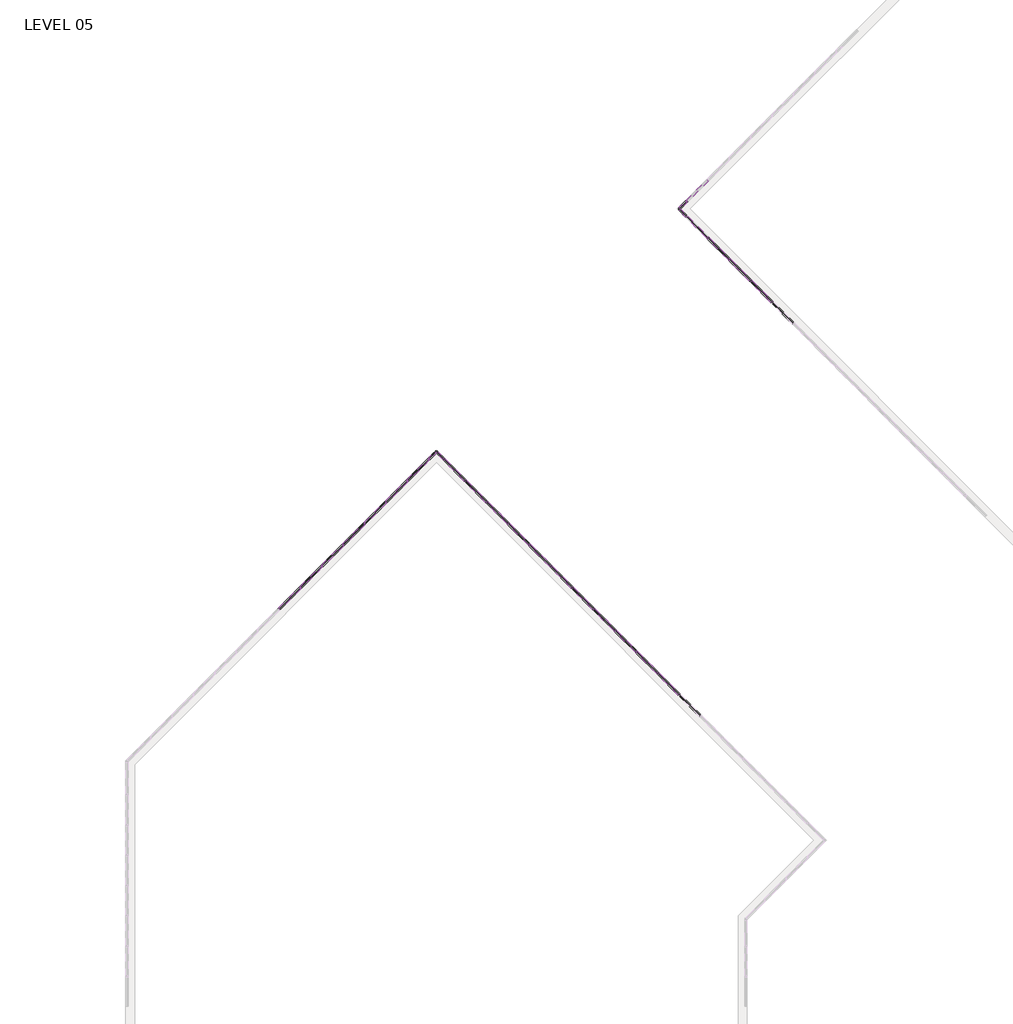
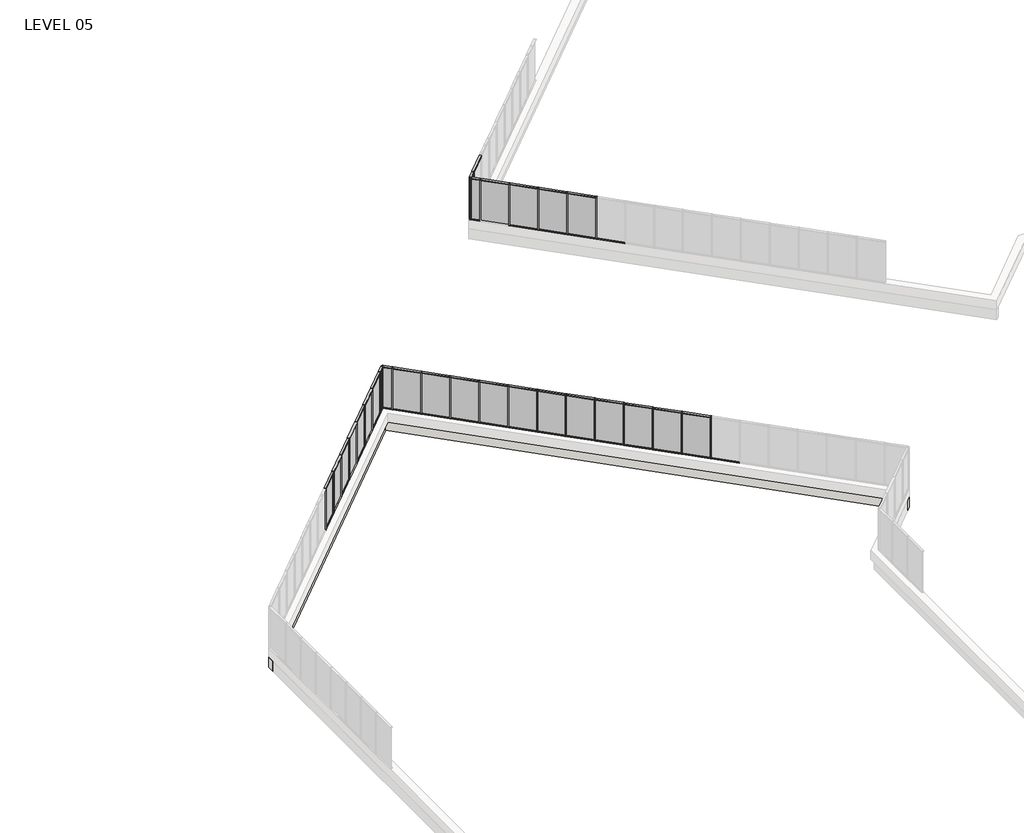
# One storey, part 6 of 17: 83 members, 26 plates, 2 walls.
"""IFC4 building model written with IfcOpenShell, lengths in millimetres."""

from ifc_helpers import new_model, si_unit, origin, place, context, project, spatial, faceted_brep, transform, mapped, element, save
from components import member_5247f267, member_e44af9ab, member_800970d4, member_ac5115e9, member_25b26a38, member_910c08c9, plate_67294edd, plate_c01932d8, plate_6d527a83, plate_88df3e37

model = new_model("IFC4")

# Units and contexts
model_context = context("Model", 3, world=origin())
ifc_project = project(units=[si_unit("LENGTHUNIT", "METRE", prefix="MILLI")], contexts=[model_context])

# Site, building, storey
site = spatial("IfcSite", under=ifc_project)
building = spatial("IfcBuilding", under=site)
storey = spatial("IfcBuildingStorey", under=building, Name="LEVEL 05", Elevation=15824.2)

# Members
placement = place(None, origin())
member_shape = member_5247f267(model_context)
element("IfcMember", 1, ObjectType="Rectangular Mullion : 2\" x 4.5\" rectangular", at=placement, inside=storey, context=model_context, shape_type="MappedRepresentation", body=[
    mapped(member_shape, transform((-3497.8097592, 103063.8559285, 15824.2), x_axis=(0.0, 0.0, -1.0), y_axis=(-0.7071067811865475, -0.7071067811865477, 0.0), z_axis=(-0.7071067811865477, 0.7071067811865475, 0.0))),
])
element("IfcMember", 2, ObjectType="Rectangular Mullion : 2\" x 4.5\" rectangular", at=placement, inside=storey, context=model_context, shape_type="MappedRepresentation", body=[
    mapped(member_shape, transform((-2420.1790246, 101986.2251939, 15824.2), x_axis=(0.0, 0.0, -1.0), y_axis=(-0.7071067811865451, -0.7071067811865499, 0.0), z_axis=(-0.7071067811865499, 0.7071067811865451, 0.0))),
])
element("IfcMember", 3, ObjectType="Rectangular Mullion : 2\" x 4.5\" rectangular", at=placement, inside=storey, context=model_context, shape_type="MappedRepresentation", body=[
    mapped(member_shape, transform((-1342.5482901, 100908.5944594, 15824.2), x_axis=(0.0, 0.0, -1.0), y_axis=(-0.7071067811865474, -0.7071067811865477, 0.0), z_axis=(-0.7071067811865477, 0.7071067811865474, 0.0))),
])
element("IfcMember", 4, ObjectType="Rectangular Mullion : 2\" x 4.5\" rectangular", at=placement, inside=storey, context=model_context, shape_type="MappedRepresentation", body=[
    mapped(member_shape, transform((-264.9175556, 99830.9637249, 15824.2), x_axis=(0.0, 0.0, -1.0), y_axis=(-0.7071067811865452, -0.7071067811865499, 0.0), z_axis=(-0.7071067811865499, 0.7071067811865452, 0.0))),
])
element("IfcMember", 5, ObjectType="Rectangular Mullion : 2\" x 4.5\" rectangular", at=placement, inside=storey, context=model_context, shape_type="MappedRepresentation", body=[
    mapped(member_shape, transform((-4575.6191663, 104942.0892742, 18415.0), x_axis=(0.0, 0.0, 1.0), y_axis=(-0.7071067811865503, 0.7071067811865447, 0.0), z_axis=(-0.7071067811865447, -0.7071067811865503, 0.0))),
])
element("IfcMember", 6, ObjectType="Rectangular Mullion : 2\" x 4.5\" rectangular", at=placement, inside=storey, context=model_context, shape_type="MappedRepresentation", body=[
    mapped(member_shape, transform((-3533.7307836, 103099.7769529, 18415.0), x_axis=(0.0, 0.0, 1.0), y_axis=(-0.7071067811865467, -0.7071067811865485, 0.0), z_axis=(0.7071067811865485, -0.7071067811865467, 0.0))),
])
element("IfcMember", 7, ObjectType="Rectangular Mullion : 2\" x 4.5\" rectangular", at=placement, inside=storey, context=model_context, shape_type="MappedRepresentation", body=[
    mapped(member_shape, transform((-2456.1000491, 102022.1462184, 18415.0), x_axis=(0.0, 0.0, 1.0), y_axis=(-0.7071067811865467, -0.7071067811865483, 0.0), z_axis=(0.7071067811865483, -0.7071067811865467, 0.0))),
])
element("IfcMember", 8, ObjectType="Rectangular Mullion : 2\" x 4.5\" rectangular", at=placement, inside=storey, context=model_context, shape_type="MappedRepresentation", body=[
    mapped(member_shape, transform((-1378.4693146, 100944.5154839, 18415.0), x_axis=(0.0, 0.0, 1.0), y_axis=(-0.707106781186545, -0.7071067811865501, 0.0), z_axis=(0.7071067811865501, -0.707106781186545, 0.0))),
])
element("IfcMember", 9, ObjectType="Rectangular Mullion : 2\" x 4.5\" rectangular", at=placement, inside=storey, context=model_context, shape_type="MappedRepresentation", body=[
    mapped(member_shape, transform((-300.8385801, 99866.8847494, 18415.0), x_axis=(0.0, 0.0, 1.0), y_axis=(-0.7071067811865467, -0.7071067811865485, 0.0), z_axis=(0.7071067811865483, -0.7071067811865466, 0.0))),
])
member_2_shape = member_e44af9ab(model_context)
element("IfcMember", 10, ObjectType="Rectangular Mullion : 2\" x 4.5\" rectangular", at=placement, inside=storey, context=model_context, shape_type="MappedRepresentation", body=[
    mapped(member_2_shape, transform((-4593.5796786, 104924.128762, 15824.2), x_axis=(-0.7071067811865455, -0.7071067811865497, 0.0), y_axis=(-0.7071067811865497, 0.7071067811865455, 0.0), z_axis=(0.0, 0.0, -1.0))),
])
element("IfcMember", 11, ObjectType="Rectangular Mullion : 2\" x 4.5\" rectangular", at=placement, inside=storey, context=model_context, shape_type="MappedRepresentation", body=[
    mapped(member_2_shape, transform((-3515.7702714, 103081.8164407, 15824.2), x_axis=(0.7071067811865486, -0.7071067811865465, 0.0), y_axis=(-0.7071067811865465, -0.7071067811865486, 0.0), z_axis=(0.0, 0.0, -1.0))),
])
element("IfcMember", 12, ObjectType="Rectangular Mullion : 2\" x 4.5\" rectangular", at=placement, inside=storey, context=model_context, shape_type="MappedRepresentation", body=[
    mapped(member_2_shape, transform((-2438.1395369, 102004.1857062, 15824.2), x_axis=(0.7071067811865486, -0.7071067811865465, 0.0), y_axis=(-0.7071067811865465, -0.7071067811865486, 0.0), z_axis=(0.0, 0.0, -1.0))),
])
element("IfcMember", 13, ObjectType="Rectangular Mullion : 2\" x 4.5\" rectangular", at=placement, inside=storey, context=model_context, shape_type="MappedRepresentation", body=[
    mapped(member_2_shape, transform((-1360.5088023, 100926.5549716, 15824.2), x_axis=(0.7071067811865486, -0.7071067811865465, 0.0), y_axis=(-0.7071067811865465, -0.7071067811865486, 0.0), z_axis=(0.0, 0.0, -1.0))),
])
element("IfcMember", 14, ObjectType="Rectangular Mullion : 2\" x 4.5\" rectangular", at=placement, inside=storey, context=model_context, shape_type="MappedRepresentation", body=[
    mapped(member_2_shape, transform((-282.8780678, 99848.9242371, 15824.2), x_axis=(0.7071067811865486, -0.7071067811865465, 0.0), y_axis=(-0.7071067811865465, -0.7071067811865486, 0.0), z_axis=(0.0, 0.0, -1.0))),
])
member_3_shape = member_800970d4(model_context)
element("IfcMember", 15, ObjectType="Rectangular Mullion : 2\" x 4.5\" rectangular", at=placement, inside=storey, context=model_context, shape_type="MappedRepresentation", body=[
    mapped(member_3_shape, transform((-4975.8311356, 104541.8773049, 15824.2), x_axis=(-0.7071067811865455, -0.7071067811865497, 0.0), y_axis=(-0.7071067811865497, 0.7071067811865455, 0.0), z_axis=(0.0, 0.0, -1.0))),
])
element("IfcMember", 16, ObjectType="Rectangular Mullion : 2\" x 4.5\" rectangular", at=placement, inside=storey, context=model_context, shape_type="MappedRepresentation", body=[
    mapped(member_3_shape, transform((-4975.8311356, 104541.8773049, 18415.0), x_axis=(-0.7071067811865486, 0.7071067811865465, 0.0), y_axis=(-0.7071067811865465, -0.7071067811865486, 0.0), z_axis=(0.0, 0.0, 1.0))),
])
member_4_shape = member_ac5115e9(model_context)
element("IfcMember", 17, ObjectType="Rectangular Mullion : 2\" x 4.5\" rectangular", at=placement, inside=storey, context=model_context, shape_type="MappedRepresentation", body=[
    mapped(member_4_shape, transform((-4939.9101111, 104577.7983294, 18415.0), x_axis=(0.0, 0.0, 1.0), y_axis=(-0.7071067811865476, 0.7071067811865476, 0.0), z_axis=(-0.7071067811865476, -0.7071067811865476, 0.0))),
])
element("IfcMember", 18, ObjectType="Rectangular Mullion : 2\" x 4.5\" rectangular", at=placement, inside=storey, context=model_context, shape_type="MappedRepresentation", body=[
    mapped(member_4_shape, transform((-4611.5401908, 104906.1682497, 15824.2), x_axis=(0.0, 0.0, -1.0), y_axis=(-0.7071067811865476, 0.7071067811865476, 0.0), z_axis=(0.7071067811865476, 0.7071067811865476, 0.0))),
])
member_5_shape = member_25b26a38(model_context)
element("IfcMember", 19, ObjectType="Rectangular Mullion : 2\" x 4.5\" rectangular", at=placement, inside=storey, context=model_context, shape_type="MappedRepresentation", body=[
    mapped(member_5_shape, transform((-4939.9101111, 104505.9562804, 15824.2), x_axis=(0.0, 0.0, -1.0), y_axis=(-0.7071067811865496, -0.7071067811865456, 0.0), z_axis=(-0.7071067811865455, 0.7071067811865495, 0.0))),
])
element("IfcMember", 20, ObjectType="Rectangular Mullion : 2\" x 4.5\" rectangular", at=placement, inside=storey, context=model_context, shape_type="MappedRepresentation", body=[
    mapped(member_5_shape, transform((-4611.3615182, 104177.4076875, 18415.0), x_axis=(0.0, 0.0, 1.0), y_axis=(-0.707106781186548, -0.707106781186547, 0.0), z_axis=(0.707106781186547, -0.707106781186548, 0.0))),
])
element("IfcMember", 21, ObjectType="Rectangular Mullion : 2\" x 4.5\" rectangular", at=placement, inside=storey, context=model_context, shape_type="MappedRepresentation", body=[
    mapped(member_shape, transform((-24063.9560929, 85453.7523477, 18415.0), x_axis=(0.0, 0.0, 1.0), y_axis=(0.707106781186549, -0.7071067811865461, 0.0), z_axis=(0.7071067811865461, 0.707106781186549, 0.0))),
])
element("IfcMember", 22, ObjectType="Rectangular Mullion : 2\" x 4.5\" rectangular", at=placement, inside=storey, context=model_context, shape_type="MappedRepresentation", body=[
    mapped(member_shape, transform((-18675.8024202, 90841.9060203, 18415.0), x_axis=(0.0, 0.0, 1.0), y_axis=(0.707106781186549, -0.7071067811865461, 0.0), z_axis=(0.7071067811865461, 0.707106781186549, 0.0))),
])
element("IfcMember", 23, ObjectType="Rectangular Mullion : 2\" x 4.5\" rectangular", at=placement, inside=storey, context=model_context, shape_type="MappedRepresentation", body=[
    mapped(member_shape, transform((-21908.6946238, 87609.0138167, 18415.0), x_axis=(0.0, 0.0, 1.0), y_axis=(0.707106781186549, -0.7071067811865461, 0.0), z_axis=(0.7071067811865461, 0.707106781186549, 0.0))),
])
element("IfcMember", 24, ObjectType="Rectangular Mullion : 2\" x 4.5\" rectangular", at=placement, inside=storey, context=model_context, shape_type="MappedRepresentation", body=[
    mapped(member_shape, transform((-22986.3253583, 86531.3830822, 18415.0), x_axis=(0.0, 0.0, 1.0), y_axis=(0.7071067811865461, -0.707106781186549, 0.0), z_axis=(0.707106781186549, 0.7071067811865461, 0.0))),
])
element("IfcMember", 25, ObjectType="Rectangular Mullion : 2\" x 4.5\" rectangular", at=placement, inside=storey, context=model_context, shape_type="MappedRepresentation", body=[
    mapped(member_shape, transform((-20831.0638893, 88686.6445513, 18415.0), x_axis=(0.0, 0.0, 1.0), y_axis=(0.7071067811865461, -0.707106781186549, 0.0), z_axis=(0.707106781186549, 0.7071067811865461, 0.0))),
])
element("IfcMember", 26, ObjectType="Rectangular Mullion : 2\" x 4.5\" rectangular", at=placement, inside=storey, context=model_context, shape_type="MappedRepresentation", body=[
    mapped(member_shape, transform((-19753.4331548, 89764.2752858, 18415.0), x_axis=(0.0, 0.0, 1.0), y_axis=(0.7071067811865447, -0.7071067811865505, 0.0), z_axis=(0.7071067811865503, 0.7071067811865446, 0.0))),
])
element("IfcMember", 27, ObjectType="Rectangular Mullion : 2\" x 4.5\" rectangular", at=placement, inside=storey, context=model_context, shape_type="MappedRepresentation", body=[
    mapped(member_shape, transform((-17598.1716857, 91919.5367548, 18415.0), x_axis=(0.0, 0.0, 1.0), y_axis=(0.7071067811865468, -0.7071067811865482, 0.0), z_axis=(0.7071067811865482, 0.7071067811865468, 0.0))),
])
element("IfcMember", 28, ObjectType="Rectangular Mullion : 2\" x 4.5\" rectangular", at=placement, inside=storey, context=model_context, shape_type="MappedRepresentation", body=[
    mapped(member_shape, transform((-15755.8593644, 90877.6483722, 18415.0), x_axis=(0.0, 0.0, 1.0), y_axis=(-0.7071067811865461, -0.707106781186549, 0.0), z_axis=(0.707106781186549, -0.7071067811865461, 0.0))),
])
element("IfcMember", 29, ObjectType="Rectangular Mullion : 2\" x 4.5\" rectangular", at=placement, inside=storey, context=model_context, shape_type="MappedRepresentation", body=[
    mapped(member_shape, transform((-14678.2286299, 89800.0176376, 18415.0), x_axis=(0.0, 0.0, 1.0), y_axis=(-0.7071067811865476, -0.7071067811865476, 0.0), z_axis=(0.7071067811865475, -0.7071067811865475, 0.0))),
])
element("IfcMember", 30, ObjectType="Rectangular Mullion : 2\" x 4.5\" rectangular", at=placement, inside=storey, context=model_context, shape_type="MappedRepresentation", body=[
    mapped(member_shape, transform((-13600.5978954, 88722.3869031, 18415.0), x_axis=(0.0, 0.0, 1.0), y_axis=(-0.7071067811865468, -0.7071067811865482, 0.0), z_axis=(0.7071067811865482, -0.7071067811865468, 0.0))),
])
element("IfcMember", 31, ObjectType="Rectangular Mullion : 2\" x 4.5\" rectangular", at=placement, inside=storey, context=model_context, shape_type="MappedRepresentation", body=[
    mapped(member_shape, transform((-11445.3364263, 86567.125434, 18415.0), x_axis=(0.0, 0.0, 1.0), y_axis=(-0.7071067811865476, -0.7071067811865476, 0.0), z_axis=(0.7071067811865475, -0.7071067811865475, 0.0))),
])
element("IfcMember", 32, ObjectType="Rectangular Mullion : 2\" x 4.5\" rectangular", at=placement, inside=storey, context=model_context, shape_type="MappedRepresentation", body=[
    mapped(member_shape, transform((-10367.7056918, 85489.4946995, 18415.0), x_axis=(0.0, 0.0, 1.0), y_axis=(-0.7071067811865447, -0.7071067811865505, 0.0), z_axis=(0.7071067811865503, -0.7071067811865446, 0.0))),
])
element("IfcMember", 33, ObjectType="Rectangular Mullion : 2\" x 4.5\" rectangular", at=placement, inside=storey, context=model_context, shape_type="MappedRepresentation", body=[
    mapped(member_shape, transform((-9290.0749572, 84411.863965, 18415.0), x_axis=(0.0, 0.0, 1.0), y_axis=(-0.7071067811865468, -0.7071067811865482, 0.0), z_axis=(0.7071067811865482, -0.7071067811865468, 0.0))),
])
element("IfcMember", 34, ObjectType="Rectangular Mullion : 2\" x 4.5\" rectangular", at=placement, inside=storey, context=model_context, shape_type="MappedRepresentation", body=[
    mapped(member_shape, transform((-8212.4442227, 83334.2332305, 18415.0), x_axis=(0.0, 0.0, 1.0), y_axis=(-0.7071067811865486, -0.7071067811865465, 0.0), z_axis=(0.7071067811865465, -0.7071067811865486, 0.0))),
])
element("IfcMember", 35, ObjectType="Rectangular Mullion : 2\" x 4.5\" rectangular", at=placement, inside=storey, context=model_context, shape_type="MappedRepresentation", body=[
    mapped(member_shape, transform((-4979.9093644, 80101.6983722, 18415.0), x_axis=(0.0, 0.0, 1.0), y_axis=(-0.7071067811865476, -0.7071067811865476, 0.0), z_axis=(0.7071067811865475, -0.7071067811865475, 0.0))),
])
element("IfcMember", 36, ObjectType="Rectangular Mullion : 2\" x 4.5\" rectangular", at=placement, inside=storey, context=model_context, shape_type="MappedRepresentation", body=[
    mapped(member_shape, transform((-12522.9671608, 87644.7561686, 18415.0), x_axis=(0.0, 0.0, 1.0), y_axis=(-0.7071067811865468, -0.7071067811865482, 0.0), z_axis=(0.7071067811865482, -0.7071067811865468, 0.0))),
])
element("IfcMember", 37, ObjectType="Rectangular Mullion : 2\" x 4.5\" rectangular", at=placement, inside=storey, context=model_context, shape_type="MappedRepresentation", body=[
    mapped(member_shape, transform((-25105.6658029, 84412.0426376, 15824.2), x_axis=(0.0, 0.0, -1.0), y_axis=(0.707106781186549, -0.7071067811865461, 0.0), z_axis=(-0.7071067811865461, -0.707106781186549, 0.0))),
])
element("IfcMember", 38, ObjectType="Rectangular Mullion : 2\" x 4.5\" rectangular", at=placement, inside=storey, context=model_context, shape_type="MappedRepresentation", body=[
    mapped(member_shape, transform((-24028.0350684, 85489.6733722, 15824.2), x_axis=(0.0, 0.0, -1.0), y_axis=(0.7071067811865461, -0.707106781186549, 0.0), z_axis=(-0.707106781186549, -0.7071067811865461, 0.0))),
])
element("IfcMember", 39, ObjectType="Rectangular Mullion : 2\" x 4.5\" rectangular", at=placement, inside=storey, context=model_context, shape_type="MappedRepresentation", body=[
    mapped(member_shape, transform((-18639.8813957, 90877.8270448, 15824.2), x_axis=(0.0, 0.0, -1.0), y_axis=(0.7071067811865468, -0.7071067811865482, 0.0), z_axis=(-0.7071067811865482, -0.7071067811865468, 0.0))),
])
element("IfcMember", 40, ObjectType="Rectangular Mullion : 2\" x 4.5\" rectangular", at=placement, inside=storey, context=model_context, shape_type="MappedRepresentation", body=[
    mapped(member_shape, transform((-21872.7735993, 87644.9348412, 15824.2), x_axis=(0.0, 0.0, -1.0), y_axis=(0.7071067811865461, -0.707106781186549, 0.0), z_axis=(-0.707106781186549, -0.7071067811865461, 0.0))),
])
element("IfcMember", 41, ObjectType="Rectangular Mullion : 2\" x 4.5\" rectangular", at=placement, inside=storey, context=model_context, shape_type="MappedRepresentation", body=[
    mapped(member_shape, transform((-22950.4043339, 86567.3041067, 15824.2), x_axis=(0.0, 0.0, -1.0), y_axis=(0.707106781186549, -0.7071067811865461, 0.0), z_axis=(-0.7071067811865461, -0.707106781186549, 0.0))),
])
element("IfcMember", 42, ObjectType="Rectangular Mullion : 2\" x 4.5\" rectangular", at=placement, inside=storey, context=model_context, shape_type="MappedRepresentation", body=[
    mapped(member_shape, transform((-20795.1428648, 88722.5655757, 15824.2), x_axis=(0.0, 0.0, -1.0), y_axis=(0.7071067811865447, -0.7071067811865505, 0.0), z_axis=(-0.7071067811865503, -0.7071067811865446, 0.0))),
])
element("IfcMember", 43, ObjectType="Rectangular Mullion : 2\" x 4.5\" rectangular", at=placement, inside=storey, context=model_context, shape_type="MappedRepresentation", body=[
    mapped(member_shape, transform((-19717.5121303, 89800.1963103, 15824.2), x_axis=(0.0, 0.0, -1.0), y_axis=(0.707106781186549, -0.7071067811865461, 0.0), z_axis=(-0.7071067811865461, -0.707106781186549, 0.0))),
])
element("IfcMember", 44, ObjectType="Rectangular Mullion : 2\" x 4.5\" rectangular", at=placement, inside=storey, context=model_context, shape_type="MappedRepresentation", body=[
    mapped(member_shape, transform((-15719.9383399, 90841.7273477, 15824.2), x_axis=(0.0, 0.0, -1.0), y_axis=(-0.7071067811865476, -0.7071067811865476, 0.0), z_axis=(-0.7071067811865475, 0.7071067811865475, 0.0))),
])
element("IfcMember", 45, ObjectType="Rectangular Mullion : 2\" x 4.5\" rectangular", at=placement, inside=storey, context=model_context, shape_type="MappedRepresentation", body=[
    mapped(member_shape, transform((-14642.3076054, 89764.0966131, 15824.2), x_axis=(0.0, 0.0, -1.0), y_axis=(-0.707106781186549, -0.7071067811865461, 0.0), z_axis=(-0.7071067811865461, 0.707106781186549, 0.0))),
])
element("IfcMember", 46, ObjectType="Rectangular Mullion : 2\" x 4.5\" rectangular", at=placement, inside=storey, context=model_context, shape_type="MappedRepresentation", body=[
    mapped(member_shape, transform((-13564.6768709, 88686.4658786, 15824.2), x_axis=(0.0, 0.0, -1.0), y_axis=(-0.7071067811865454, -0.7071067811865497, 0.0), z_axis=(-0.7071067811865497, 0.7071067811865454, 0.0))),
])
element("IfcMember", 47, ObjectType="Rectangular Mullion : 2\" x 4.5\" rectangular", at=placement, inside=storey, context=model_context, shape_type="MappedRepresentation", body=[
    mapped(member_shape, transform((-11409.4154018, 86531.2044096, 15824.2), x_axis=(0.0, 0.0, -1.0), y_axis=(-0.7071067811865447, -0.7071067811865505, 0.0), z_axis=(-0.7071067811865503, 0.7071067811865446, 0.0))),
])
element("IfcMember", 48, ObjectType="Rectangular Mullion : 2\" x 4.5\" rectangular", at=placement, inside=storey, context=model_context, shape_type="MappedRepresentation", body=[
    mapped(member_shape, transform((-10331.7846673, 85453.573675, 15824.2), x_axis=(0.0, 0.0, -1.0), y_axis=(-0.7071067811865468, -0.7071067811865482, 0.0), z_axis=(-0.7071067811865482, 0.7071067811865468, 0.0))),
])
element("IfcMember", 49, ObjectType="Rectangular Mullion : 2\" x 4.5\" rectangular", at=placement, inside=storey, context=model_context, shape_type="MappedRepresentation", body=[
    mapped(member_shape, transform((-9254.1539328, 84375.9429405, 15824.2), x_axis=(0.0, 0.0, -1.0), y_axis=(-0.7071067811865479, -0.7071067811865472, 0.0), z_axis=(-0.7071067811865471, 0.7071067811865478, 0.0))),
])
element("IfcMember", 50, ObjectType="Rectangular Mullion : 2\" x 4.5\" rectangular", at=placement, inside=storey, context=model_context, shape_type="MappedRepresentation", body=[
    mapped(member_shape, transform((-6021.6190745, 81143.4080822, 15824.2), x_axis=(0.0, 0.0, -1.0), y_axis=(-0.7071067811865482, -0.7071067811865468, 0.0), z_axis=(-0.7071067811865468, 0.7071067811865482, 0.0))),
])
element("IfcMember", 51, ObjectType="Rectangular Mullion : 2\" x 4.5\" rectangular", at=placement, inside=storey, context=model_context, shape_type="MappedRepresentation", body=[
    mapped(member_shape, transform((-4943.9883399, 80065.7773477, 15824.2), x_axis=(0.0, 0.0, -1.0), y_axis=(-0.7071067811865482, -0.7071067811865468, 0.0), z_axis=(-0.7071067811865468, 0.7071067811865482, 0.0))),
])
element("IfcMember", 52, ObjectType="Rectangular Mullion : 2\" x 4.5\" rectangular", at=placement, inside=storey, context=model_context, shape_type="MappedRepresentation", body=[
    mapped(member_shape, transform((-12487.0461363, 87608.8351441, 15824.2), x_axis=(0.0, 0.0, -1.0), y_axis=(-0.7071067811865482, -0.7071067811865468, 0.0), z_axis=(-0.7071067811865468, 0.7071067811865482, 0.0))),
])
element("IfcMember", 53, ObjectType="Rectangular Mullion : 2\" x 4.5\" rectangular", at=placement, inside=storey, context=model_context, shape_type="MappedRepresentation", body=[
    mapped(member_shape, transform((-16797.5690745, 91919.3580822, 15824.2), x_axis=(0.0, 0.0, -1.0), y_axis=(-0.7071067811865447, -0.7071067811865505, 0.0), z_axis=(-0.7071067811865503, 0.7071067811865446, 0.0))),
])
element("IfcMember", 54, ObjectType="Rectangular Mullion : 2\" x 4.5\" rectangular", at=placement, inside=storey, context=model_context, shape_type="MappedRepresentation", body=[
    mapped(member_2_shape, transform((-25123.6263152, 84394.0821254, 15824.2), x_axis=(0.7071067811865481, 0.7071067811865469, 0.0), y_axis=(0.7071067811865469, -0.7071067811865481, 0.0), z_axis=(0.0, 0.0, -1.0))),
])
element("IfcMember", 55, ObjectType="Rectangular Mullion : 2\" x 4.5\" rectangular", at=placement, inside=storey, context=model_context, shape_type="MappedRepresentation", body=[
    mapped(member_2_shape, transform((-24045.9955806, 85471.7128599, 15824.2), x_axis=(0.7071067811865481, 0.7071067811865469, 0.0), y_axis=(0.7071067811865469, -0.7071067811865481, 0.0), z_axis=(0.0, 0.0, -1.0))),
])
element("IfcMember", 56, ObjectType="Rectangular Mullion : 2\" x 4.5\" rectangular", at=placement, inside=storey, context=model_context, shape_type="MappedRepresentation", body=[
    mapped(member_2_shape, transform((-18657.841908, 90859.8665326, 15824.2), x_axis=(0.7071067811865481, 0.7071067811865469, 0.0), y_axis=(0.7071067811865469, -0.7071067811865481, 0.0), z_axis=(0.0, 0.0, -1.0))),
])
element("IfcMember", 57, ObjectType="Rectangular Mullion : 2\" x 4.5\" rectangular", at=placement, inside=storey, context=model_context, shape_type="MappedRepresentation", body=[
    mapped(member_2_shape, transform((-21890.7341116, 87626.974329, 15824.2), x_axis=(0.7071067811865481, 0.7071067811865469, 0.0), y_axis=(0.7071067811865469, -0.7071067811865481, 0.0), z_axis=(0.0, 0.0, -1.0))),
])
element("IfcMember", 58, ObjectType="Rectangular Mullion : 2\" x 4.5\" rectangular", at=placement, inside=storey, context=model_context, shape_type="MappedRepresentation", body=[
    mapped(member_2_shape, transform((-22968.3648461, 86549.3435944, 15824.2), x_axis=(0.7071067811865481, 0.7071067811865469, 0.0), y_axis=(0.7071067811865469, -0.7071067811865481, 0.0), z_axis=(0.0, 0.0, -1.0))),
])
element("IfcMember", 59, ObjectType="Rectangular Mullion : 2\" x 4.5\" rectangular", at=placement, inside=storey, context=model_context, shape_type="MappedRepresentation", body=[
    mapped(member_2_shape, transform((-20813.103377, 88704.6050635, 15824.2), x_axis=(0.7071067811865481, 0.7071067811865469, 0.0), y_axis=(0.7071067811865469, -0.7071067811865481, 0.0), z_axis=(0.0, 0.0, -1.0))),
])
element("IfcMember", 60, ObjectType="Rectangular Mullion : 2\" x 4.5\" rectangular", at=placement, inside=storey, context=model_context, shape_type="MappedRepresentation", body=[
    mapped(member_2_shape, transform((-19735.4726425, 89782.235798, 15824.2), x_axis=(0.7071067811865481, 0.7071067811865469, 0.0), y_axis=(0.7071067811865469, -0.7071067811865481, 0.0), z_axis=(0.0, 0.0, -1.0))),
])
element("IfcMember", 61, ObjectType="Rectangular Mullion : 2\" x 4.5\" rectangular", at=placement, inside=storey, context=model_context, shape_type="MappedRepresentation", body=[
    mapped(member_2_shape, transform((-17580.2111735, 91937.4972671, 15824.2), x_axis=(0.7071067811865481, 0.7071067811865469, 0.0), y_axis=(0.7071067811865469, -0.7071067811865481, 0.0), z_axis=(0.0, 0.0, -1.0))),
])
element("IfcMember", 62, ObjectType="Rectangular Mullion : 2\" x 4.5\" rectangular", at=placement, inside=storey, context=model_context, shape_type="MappedRepresentation", body=[
    mapped(member_2_shape, transform((-15737.8988522, 90859.6878599, 15824.2), x_axis=(0.707106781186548, -0.7071067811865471, 0.0), y_axis=(-0.7071067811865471, -0.707106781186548, 0.0), z_axis=(0.0, 0.0, -1.0))),
])
element("IfcMember", 63, ObjectType="Rectangular Mullion : 2\" x 4.5\" rectangular", at=placement, inside=storey, context=model_context, shape_type="MappedRepresentation", body=[
    mapped(member_2_shape, transform((-14660.2681176, 89782.0571254, 15824.2), x_axis=(0.707106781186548, -0.7071067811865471, 0.0), y_axis=(-0.7071067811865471, -0.707106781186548, 0.0), z_axis=(0.0, 0.0, -1.0))),
])
element("IfcMember", 64, ObjectType="Rectangular Mullion : 2\" x 4.5\" rectangular", at=placement, inside=storey, context=model_context, shape_type="MappedRepresentation", body=[
    mapped(member_2_shape, transform((-13582.6373831, 88704.4263909, 15824.2), x_axis=(0.707106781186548, -0.7071067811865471, 0.0), y_axis=(-0.7071067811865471, -0.707106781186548, 0.0), z_axis=(0.0, 0.0, -1.0))),
])
element("IfcMember", 65, ObjectType="Rectangular Mullion : 2\" x 4.5\" rectangular", at=placement, inside=storey, context=model_context, shape_type="MappedRepresentation", body=[
    mapped(member_2_shape, transform((-11427.3759141, 86549.1649218, 15824.2), x_axis=(0.707106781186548, -0.7071067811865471, 0.0), y_axis=(-0.7071067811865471, -0.707106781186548, 0.0), z_axis=(0.0, 0.0, -1.0))),
])
element("IfcMember", 66, ObjectType="Rectangular Mullion : 2\" x 4.5\" rectangular", at=placement, inside=storey, context=model_context, shape_type="MappedRepresentation", body=[
    mapped(member_2_shape, transform((-10349.7451795, 85471.5341873, 15824.2), x_axis=(0.707106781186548, -0.7071067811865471, 0.0), y_axis=(-0.7071067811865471, -0.707106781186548, 0.0), z_axis=(0.0, 0.0, -1.0))),
])
element("IfcMember", 67, ObjectType="Rectangular Mullion : 2\" x 4.5\" rectangular", at=placement, inside=storey, context=model_context, shape_type="MappedRepresentation", body=[
    mapped(member_2_shape, transform((-9272.114445, 84393.9034527, 15824.2), x_axis=(0.707106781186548, -0.7071067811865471, 0.0), y_axis=(-0.7071067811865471, -0.707106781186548, 0.0), z_axis=(0.0, 0.0, -1.0))),
])
element("IfcMember", 68, ObjectType="Rectangular Mullion : 2\" x 4.5\" rectangular", at=placement, inside=storey, context=model_context, shape_type="MappedRepresentation", body=[
    mapped(member_2_shape, transform((-8194.4837105, 83316.2727182, 15824.2), x_axis=(0.707106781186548, -0.7071067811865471, 0.0), y_axis=(-0.7071067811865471, -0.707106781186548, 0.0), z_axis=(0.0, 0.0, -1.0))),
])
element("IfcMember", 69, ObjectType="Rectangular Mullion : 2\" x 4.5\" rectangular", at=placement, inside=storey, context=model_context, shape_type="MappedRepresentation", body=[
    mapped(member_2_shape, transform((-6039.5795867, 81161.3685944, 15824.2), x_axis=(0.707106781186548, -0.7071067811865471, 0.0), y_axis=(-0.7071067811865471, -0.707106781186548, 0.0), z_axis=(0.0, 0.0, -1.0))),
])
element("IfcMember", 70, ObjectType="Rectangular Mullion : 2\" x 4.5\" rectangular", at=placement, inside=storey, context=model_context, shape_type="MappedRepresentation", body=[
    mapped(member_2_shape, transform((-4961.9488522, 80083.7378599, 15824.2), x_axis=(0.707106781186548, -0.7071067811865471, 0.0), y_axis=(-0.7071067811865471, -0.707106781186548, 0.0), z_axis=(0.0, 0.0, -1.0))),
])
element("IfcMember", 71, ObjectType="Rectangular Mullion : 2\" x 4.5\" rectangular", at=placement, inside=storey, context=model_context, shape_type="MappedRepresentation", body=[
    mapped(member_2_shape, transform((-12505.0066486, 87626.7956563, 15824.2), x_axis=(0.707106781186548, -0.7071067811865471, 0.0), y_axis=(-0.7071067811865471, -0.707106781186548, 0.0), z_axis=(0.0, 0.0, -1.0))),
])
element("IfcMember", 72, ObjectType="Rectangular Mullion : 2\" x 4.5\" rectangular", at=placement, inside=storey, context=model_context, shape_type="MappedRepresentation", body=[
    mapped(member_2_shape, transform((-16815.5295867, 91937.3185944, 15824.2), x_axis=(0.707106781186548, -0.7071067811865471, 0.0), y_axis=(-0.7071067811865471, -0.707106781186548, 0.0), z_axis=(0.0, 0.0, -1.0))),
])
element("IfcMember", 73, ObjectType="Rectangular Mullion : 2\" x 4.5\" rectangular", at=placement, inside=storey, context=model_context, shape_type="MappedRepresentation", body=[
    mapped(member_2_shape, transform((-7117.0316486, 82238.8206563, 15824.2), x_axis=(0.707106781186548, -0.7071067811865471, 0.0), y_axis=(-0.7071067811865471, -0.707106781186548, 0.0), z_axis=(0.0, 0.0, -1.0))),
])
element("IfcMember", 74, ObjectType="Rectangular Mullion : 2\" x 4.5\" rectangular", at=placement, inside=storey, context=model_context, shape_type="MappedRepresentation", body=[
    mapped(member_3_shape, transform((-17197.9597164, 92319.7487241, 15824.2), x_axis=(0.7071067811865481, 0.7071067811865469, 0.0), y_axis=(0.7071067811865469, -0.7071067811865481, 0.0), z_axis=(0.0, 0.0, -1.0))),
])
element("IfcMember", 75, ObjectType="Rectangular Mullion : 2\" x 4.5\" rectangular", at=placement, inside=storey, context=model_context, shape_type="MappedRepresentation", body=[
    mapped(member_3_shape, transform((-17197.9597164, 92319.7487241, 18415.0), x_axis=(-0.707106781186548, 0.7071067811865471, 0.0), y_axis=(-0.7071067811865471, -0.707106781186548, 0.0), z_axis=(0.0, 0.0, 1.0))),
])
element("IfcMember", 76, ObjectType="Rectangular Mullion : 2\" x 4.5\" rectangular", at=placement, inside=storey, context=model_context, shape_type="MappedRepresentation", body=[
    mapped(member_5_shape, transform((-16833.4900989, 91955.2791067, 18415.0), x_axis=(0.0, 0.0, 1.0), y_axis=(-0.7071067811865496, -0.7071067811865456, 0.0), z_axis=(0.7071067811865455, -0.7071067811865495, 0.0))),
])
element("IfcMember", 77, ObjectType="Rectangular Mullion : 2\" x 4.5\" rectangular", at=placement, inside=storey, context=model_context, shape_type="MappedRepresentation", body=[
    mapped(member_5_shape, transform((-17162.0386919, 92283.8276997, 15824.2), x_axis=(0.0, 0.0, -1.0), y_axis=(-0.7071067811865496, -0.7071067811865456, 0.0), z_axis=(-0.7071067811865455, 0.7071067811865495, 0.0))),
])
element("IfcMember", 78, ObjectType="Rectangular Mullion : 2\" x 4.5\" rectangular", at=placement, inside=storey, context=model_context, shape_type="MappedRepresentation", body=[
    mapped(member_4_shape, transform((-17233.8807409, 92283.8276997, 18415.0), x_axis=(0.0, 0.0, 1.0), y_axis=(0.7071067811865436, -0.7071067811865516, 0.0), z_axis=(0.7071067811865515, 0.7071067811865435, 0.0))),
])
element("IfcMember", 79, ObjectType="Rectangular Mullion : 2\" x 4.5\" rectangular", at=placement, inside=storey, context=model_context, shape_type="MappedRepresentation", body=[
    mapped(member_4_shape, transform((-17562.2506612, 91955.4577793, 15824.2), x_axis=(0.0, 0.0, -1.0), y_axis=(0.7071067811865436, -0.7071067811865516, 0.0), z_axis=(-0.7071067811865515, -0.7071067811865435, 0.0))),
])
member_6_shape = member_910c08c9(model_context)
element("IfcMember", 80, ObjectType="Rectangular Mullion : 2\" x 4.5\" rectangular", at=placement, inside=storey, context=model_context, shape_type="MappedRepresentation", body=[
    mapped(member_6_shape, transform((-6057.5400989, 81179.3291067, 18415.0), x_axis=(0.0, 0.0, 1.0), y_axis=(-0.7071067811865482, -0.7071067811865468, 0.0), z_axis=(0.7071067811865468, -0.7071067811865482, 0.0))),
])
element("IfcMember", 81, ObjectType="Rectangular Mullion : 2\" x 4.5\" rectangular", at=placement, inside=storey, context=model_context, shape_type="MappedRepresentation", body=[
    mapped(member_6_shape, transform((-7134.9921608, 82256.7811686, 18415.0), x_axis=(0.0, 0.0, 1.0), y_axis=(-0.7071067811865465, -0.7071067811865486, 0.0), z_axis=(0.7071067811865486, -0.7071067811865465, 0.0))),
])
element("IfcMember", 82, ObjectType="Rectangular Mullion : 2\" x 4.5\" rectangular", at=placement, inside=storey, context=model_context, shape_type="MappedRepresentation", body=[
    mapped(member_6_shape, transform((-8176.5231982, 83298.312206, 15824.2), x_axis=(0.0, 0.0, -1.0), y_axis=(-0.7071067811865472, -0.7071067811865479, 0.0), z_axis=(-0.7071067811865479, 0.7071067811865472, 0.0))),
])
element("IfcMember", 83, ObjectType="Rectangular Mullion : 2\" x 4.5\" rectangular", at=placement, inside=storey, context=model_context, shape_type="MappedRepresentation", body=[
    mapped(member_6_shape, transform((-7099.0711363, 82220.8601441, 15824.2), x_axis=(0.0, 0.0, -1.0), y_axis=(-0.7071067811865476, -0.7071067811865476, 0.0), z_axis=(-0.7071067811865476, 0.7071067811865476, 0.0))),
])

# Plates
plate_shape = plate_67294edd(model_context)
element("IfcPlate", 84, ObjectType="System Panel : 1/4\" Glass", at=placement, inside=storey, context=model_context, shape_type="MappedRepresentation", body=[
    mapped(plate_shape, transform((-2976.9549041, 102543.0010734, 15875.0), x_axis=(0.7071067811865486, -0.7071067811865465, 0.0), y_axis=(0.7071067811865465, 0.7071067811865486, 0.0), z_axis=(0.0, 0.0, 1.0))),
])
element("IfcPlate", 85, ObjectType="System Panel : 1/4\" Glass", at=placement, inside=storey, context=model_context, shape_type="MappedRepresentation", body=[
    mapped(plate_shape, transform((-1899.3241696, 101465.3703389, 15875.0), x_axis=(0.7071067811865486, -0.7071067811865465, 0.0), y_axis=(0.7071067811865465, 0.7071067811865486, 0.0), z_axis=(0.0, 0.0, 1.0))),
])
element("IfcPlate", 86, ObjectType="System Panel : 1/4\" Glass", at=placement, inside=storey, context=model_context, shape_type="MappedRepresentation", body=[
    mapped(plate_shape, transform((-821.6934351, 100387.7396044, 15875.0), x_axis=(0.7071067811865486, -0.7071067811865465, 0.0), y_axis=(0.7071067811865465, 0.7071067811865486, 0.0), z_axis=(0.0, 0.0, 1.0))),
])
element("IfcPlate", 87, ObjectType="System Panel : 1/4\" Glass", at=placement, inside=storey, context=model_context, shape_type="MappedRepresentation", body=[
    mapped(plate_shape, transform((-4054.5856387, 103620.631808, 15875.0), x_axis=(0.7071067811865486, -0.7071067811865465, 0.0), y_axis=(0.7071067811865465, 0.7071067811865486, 0.0), z_axis=(0.0, 0.0, 1.0))),
])
plate_2_shape = plate_c01932d8(model_context)
element("IfcPlate", 88, ObjectType="System Panel : 1/4\" Glass", at=placement, inside=storey, context=model_context, shape_type="MappedRepresentation", body=[
    mapped(plate_2_shape, transform((-4775.725151, 104741.9832896, 15875.0), x_axis=(-0.7071067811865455, -0.7071067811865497, 0.0), y_axis=(0.7071067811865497, -0.7071067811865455, 0.0), z_axis=(0.0, 0.0, 1.0))),
])
plate_3_shape = plate_6d527a83(model_context)
element("IfcPlate", 89, ObjectType="System Panel : 1/4\" Glass", at=placement, inside=storey, context=model_context, shape_type="MappedRepresentation", body=[
    mapped(plate_3_shape, transform((-4775.6358147, 104341.681984, 15875.0), x_axis=(0.7071067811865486, -0.7071067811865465, 0.0), y_axis=(0.7071067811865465, 0.7071067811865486, 0.0), z_axis=(0.0, 0.0, 1.0))),
])
element("IfcPlate", 90, ObjectType="System Panel : 1/4\" Glass", at=placement, inside=storey, context=model_context, shape_type="MappedRepresentation", body=[
    mapped(plate_shape, transform((-24584.8109479, 84932.8974927, 15875.0), x_axis=(0.7071067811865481, 0.7071067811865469, 0.0), y_axis=(-0.7071067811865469, 0.7071067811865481, 0.0), z_axis=(0.0, 0.0, 1.0))),
])
element("IfcPlate", 91, ObjectType="System Panel : 1/4\" Glass", at=placement, inside=storey, context=model_context, shape_type="MappedRepresentation", body=[
    mapped(plate_shape, transform((-23507.1802134, 86010.5282272, 15875.0), x_axis=(0.7071067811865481, 0.7071067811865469, 0.0), y_axis=(-0.7071067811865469, 0.7071067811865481, 0.0), z_axis=(0.0, 0.0, 1.0))),
])
element("IfcPlate", 92, ObjectType="System Panel : 1/4\" Glass", at=placement, inside=storey, context=model_context, shape_type="MappedRepresentation", body=[
    mapped(plate_shape, transform((-18119.0265407, 91398.6818998, 15875.0), x_axis=(0.7071067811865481, 0.7071067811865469, 0.0), y_axis=(-0.7071067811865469, 0.7071067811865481, 0.0), z_axis=(0.0, 0.0, 1.0))),
])
element("IfcPlate", 93, ObjectType="System Panel : 1/4\" Glass", at=placement, inside=storey, context=model_context, shape_type="MappedRepresentation", body=[
    mapped(plate_shape, transform((-21351.9187443, 88165.7896962, 15875.0), x_axis=(0.7071067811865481, 0.7071067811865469, 0.0), y_axis=(-0.7071067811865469, 0.7071067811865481, 0.0), z_axis=(0.0, 0.0, 1.0))),
])
element("IfcPlate", 94, ObjectType="System Panel : 1/4\" Glass", at=placement, inside=storey, context=model_context, shape_type="MappedRepresentation", body=[
    mapped(plate_shape, transform((-22429.5494788, 87088.1589617, 15875.0), x_axis=(0.7071067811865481, 0.7071067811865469, 0.0), y_axis=(-0.7071067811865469, 0.7071067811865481, 0.0), z_axis=(0.0, 0.0, 1.0))),
])
element("IfcPlate", 95, ObjectType="System Panel : 1/4\" Glass", at=placement, inside=storey, context=model_context, shape_type="MappedRepresentation", body=[
    mapped(plate_shape, transform((-20274.2880098, 89243.4204308, 15875.0), x_axis=(0.7071067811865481, 0.7071067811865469, 0.0), y_axis=(-0.7071067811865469, 0.7071067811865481, 0.0), z_axis=(0.0, 0.0, 1.0))),
])
element("IfcPlate", 96, ObjectType="System Panel : 1/4\" Glass", at=placement, inside=storey, context=model_context, shape_type="MappedRepresentation", body=[
    mapped(plate_shape, transform((-19196.6572753, 90321.0511653, 15875.0), x_axis=(0.7071067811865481, 0.7071067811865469, 0.0), y_axis=(-0.7071067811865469, 0.7071067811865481, 0.0), z_axis=(0.0, 0.0, 1.0))),
])
element("IfcPlate", 97, ObjectType="System Panel : 1/4\" Glass", at=placement, inside=storey, context=model_context, shape_type="MappedRepresentation", body=[
    mapped(plate_shape, transform((-15199.0834849, 90320.8724927, 15875.0), x_axis=(0.707106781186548, -0.7071067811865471, 0.0), y_axis=(0.7071067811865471, 0.707106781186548, 0.0), z_axis=(0.0, 0.0, 1.0))),
])
element("IfcPlate", 98, ObjectType="System Panel : 1/4\" Glass", at=placement, inside=storey, context=model_context, shape_type="MappedRepresentation", body=[
    mapped(plate_shape, transform((-14121.4527504, 89243.2417581, 15875.0), x_axis=(0.707106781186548, -0.7071067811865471, 0.0), y_axis=(0.7071067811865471, 0.707106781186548, 0.0), z_axis=(0.0, 0.0, 1.0))),
])
element("IfcPlate", 99, ObjectType="System Panel : 1/4\" Glass", at=placement, inside=storey, context=model_context, shape_type="MappedRepresentation", body=[
    mapped(plate_shape, transform((-13043.8220159, 88165.6110236, 15875.0), x_axis=(0.707106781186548, -0.7071067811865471, 0.0), y_axis=(0.7071067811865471, 0.707106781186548, 0.0), z_axis=(0.0, 0.0, 1.0))),
])
element("IfcPlate", 100, ObjectType="System Panel : 1/4\" Glass", at=placement, inside=storey, context=model_context, shape_type="MappedRepresentation", body=[
    mapped(plate_shape, transform((-10888.5605468, 86010.3495545, 15875.0), x_axis=(0.707106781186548, -0.7071067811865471, 0.0), y_axis=(0.7071067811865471, 0.707106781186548, 0.0), z_axis=(0.0, 0.0, 1.0))),
])
element("IfcPlate", 101, ObjectType="System Panel : 1/4\" Glass", at=placement, inside=storey, context=model_context, shape_type="MappedRepresentation", body=[
    mapped(plate_shape, transform((-9810.9298123, 84932.71882, 15875.0), x_axis=(0.707106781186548, -0.7071067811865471, 0.0), y_axis=(0.7071067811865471, 0.707106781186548, 0.0), z_axis=(0.0, 0.0, 1.0))),
])
element("IfcPlate", 102, ObjectType="System Panel : 1/4\" Glass", at=placement, inside=storey, context=model_context, shape_type="MappedRepresentation", body=[
    mapped(plate_shape, transform((-8733.2990777, 83855.0880855, 15875.0), x_axis=(0.707106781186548, -0.7071067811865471, 0.0), y_axis=(0.7071067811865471, 0.707106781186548, 0.0), z_axis=(0.0, 0.0, 1.0))),
])
element("IfcPlate", 103, ObjectType="System Panel : 1/4\" Glass", at=placement, inside=storey, context=model_context, shape_type="MappedRepresentation", body=[
    mapped(plate_shape, transform((-5500.7642194, 80622.5532272, 15875.0), x_axis=(0.707106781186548, -0.7071067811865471, 0.0), y_axis=(0.7071067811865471, 0.707106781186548, 0.0), z_axis=(0.0, 0.0, 1.0))),
])
element("IfcPlate", 104, ObjectType="System Panel : 1/4\" Glass", at=placement, inside=storey, context=model_context, shape_type="MappedRepresentation", body=[
    mapped(plate_shape, transform((-11966.1912813, 87087.9802891, 15875.0), x_axis=(0.707106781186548, -0.7071067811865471, 0.0), y_axis=(0.7071067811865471, 0.707106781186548, 0.0), z_axis=(0.0, 0.0, 1.0))),
])
element("IfcPlate", 105, ObjectType="System Panel : 1/4\" Glass", at=placement, inside=storey, context=model_context, shape_type="MappedRepresentation", body=[
    mapped(plate_shape, transform((-16276.7142194, 91398.5032272, 15875.0), x_axis=(0.707106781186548, -0.7071067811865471, 0.0), y_axis=(0.7071067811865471, 0.707106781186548, 0.0), z_axis=(0.0, 0.0, 1.0))),
])
element("IfcPlate", 106, ObjectType="System Panel : 1/4\" Glass", at=placement, inside=storey, context=model_context, shape_type="MappedRepresentation", body=[
    mapped(plate_3_shape, transform((-16997.7643954, 92119.5534032, 15875.0), x_axis=(0.707106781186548, -0.7071067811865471, 0.0), y_axis=(0.7071067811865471, 0.707106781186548, 0.0), z_axis=(0.0, 0.0, 1.0))),
])
plate_4_shape = plate_88df3e37(model_context)
element("IfcPlate", 107, ObjectType="System Panel : 1/4\" Glass", at=placement, inside=storey, context=model_context, shape_type="MappedRepresentation", body=[
    mapped(plate_4_shape, transform((-7655.7576795, 82777.5466873, 15875.0), x_axis=(0.707106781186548, -0.7071067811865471, 0.0), y_axis=(0.7071067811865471, 0.707106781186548, 0.0), z_axis=(0.0, 0.0, 1.0))),
])
element("IfcPlate", 108, ObjectType="System Panel : 1/4\" Glass", at=placement, inside=storey, context=model_context, shape_type="MappedRepresentation", body=[
    mapped(plate_4_shape, transform((-6578.3056176, 81700.0946254, 15875.0), x_axis=(0.707106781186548, -0.7071067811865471, 0.0), y_axis=(0.7071067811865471, 0.707106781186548, 0.0), z_axis=(0.0, 0.0, 1.0))),
])
element("IfcPlate", 109, ObjectType="System Panel : 1/4\" Glass", at=placement, inside=storey, context=model_context, shape_type="MappedRepresentation", body=[
    mapped(plate_2_shape, transform((-17398.0657011, 92119.6427395, 15875.0), x_axis=(0.7071067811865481, 0.7071067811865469, 0.0), y_axis=(-0.7071067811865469, 0.7071067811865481, 0.0), z_axis=(0.0, 0.0, 1.0))),
])

# Walls
element("IfcWall", 110, ObjectType="01-CONCRETE-12", at=placement, inside=storey, context=model_context, shape_type="Brep", body=[
    faceted_brep([(2444.6437243, 72757.9675885, 14643.1), (-17197.9597164, 92400.5710292, 14643.1), (-17197.9597164, 92400.5710292, 15265.4), (2444.6437243, 72757.9675885, 15265.4), (2229.1175774, 72542.4414416, 14643.1), (2229.1175774, 72542.4414416, 15265.4), (2013.5914305, 72757.9675885, 15265.4), (-17197.9597164, 91969.5187354, 15265.4), (-17413.4858633, 92185.0448823, 15265.4), (-17413.4858633, 92185.0448823, 14643.1), (-17197.9597164, 91969.5187354, 14643.1), (2013.5914305, 72757.9675885, 14643.1)], [[[0, 1, 2, 3]], [[4, 5, 6, 7, 8, 9, 10, 11]], [[1, 0, 4, 11, 10, 9]], [[3, 2, 8, 7, 6, 5]], [[0, 3, 5, 4]], [[2, 1, 9, 8]]]),
])
element("IfcWall", 111, ObjectType="01-CONCRETE-12", at=placement, inside=storey, context=model_context, shape_type="Brep", body=[
    faceted_brep([(-17413.4858633, 92185.0448823, 14643.1), (-32841.1847164, 76757.3460292, 14643.1), (-32841.1847164, 76757.3460292, 15265.4), (-17413.4858633, 92185.0448823, 15265.4), (-17197.9597164, 91969.5187354, 14643.1), (-17197.9597164, 91969.5187354, 15265.4), (-32536.3847164, 76631.0937354, 15265.4), (-32841.1847164, 76326.2937354, 15265.4), (-32841.1847164, 76326.2937354, 14643.1), (-32536.3847164, 76631.0937354, 14643.1)], [[[0, 1, 2, 3]], [[4, 5, 6, 7, 8, 9]], [[1, 0, 4, 9, 8]], [[3, 2, 7, 6, 5]], [[2, 1, 8, 7]], [[0, 3, 5, 4]]]),
])

save(model, "model.ifc")
